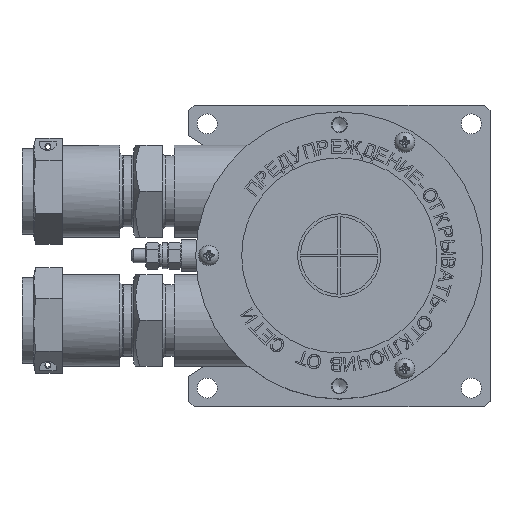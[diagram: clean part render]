
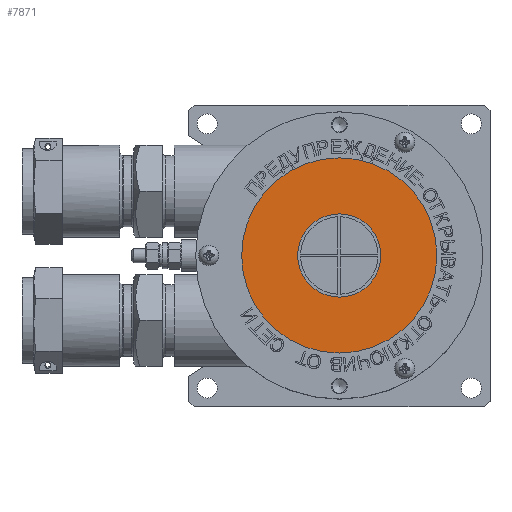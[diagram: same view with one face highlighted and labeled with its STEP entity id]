
A CAD part, top view. The second image highlights one B-rep face of the part: STEP entity #7871.
In plain terms, the highlighted planar face has unit normal (0, 0, 1).
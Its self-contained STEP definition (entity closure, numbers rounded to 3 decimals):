
#7871=ADVANCED_FACE('',(#19815,#19817),#19819,.T.);
#19815=FACE_BOUND('',#19816,.T.);
#19816=EDGE_LOOP('',(#28934));
#19817=FACE_BOUND('',#19818,.T.);
#19818=EDGE_LOOP('',(#28935));
#19819=PLANE('',#19820);
#19820=AXIS2_PLACEMENT_3D('',#19821,#19822,#19823);
#19821=CARTESIAN_POINT('',(0.,0.,106.5));
#19822=DIRECTION('',(0.,0.,1.));
#19823=DIRECTION('',(0.,1.,0.));
#28934=ORIENTED_EDGE('',*,*,#33527,.T.);
#28935=ORIENTED_EDGE('',*,*,#35223,.T.);
#33527=EDGE_CURVE('',#38410,#38410,#38411,.T.);
#35223=EDGE_CURVE('',#40977,#40977,#40978,.F.);
#38410=VERTEX_POINT('',#48787);
#38411=CIRCLE('',#48788,34.);
#40977=VERTEX_POINT('',#55122);
#40978=CIRCLE('',#55123,14.5);
#48787=CARTESIAN_POINT('',(0.,-34.,106.5));
#48788=AXIS2_PLACEMENT_3D('',#48789,#48790,#48791);
#48789=CARTESIAN_POINT('',(0.,0.,106.5));
#48790=DIRECTION('',(0.,0.,1.));
#48791=DIRECTION('',(0.,-1.,0.));
#55122=CARTESIAN_POINT('',(0.,14.5,106.5));
#55123=AXIS2_PLACEMENT_3D('',#55124,#55125,#55126);
#55124=CARTESIAN_POINT('',(0.,0.,106.5));
#55125=DIRECTION('',(0.,0.,1.));
#55126=DIRECTION('',(0.,1.,0.));
